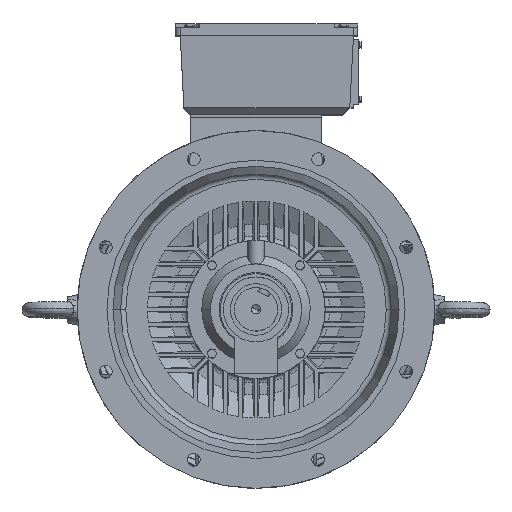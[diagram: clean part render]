
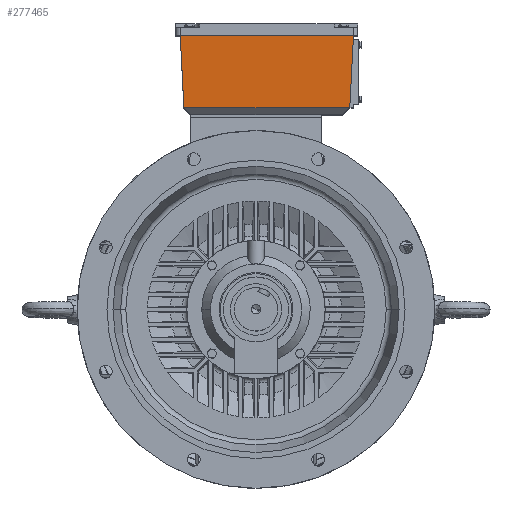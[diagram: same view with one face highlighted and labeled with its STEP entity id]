
A CAD part, top view. The second image highlights one B-rep face of the part: STEP entity #277465.
In plain terms, the highlighted planar face has unit normal (0, -0.051, 0.999) as drawn and (-0.999, 0, -0.051) by its records, which use the part's own axes.
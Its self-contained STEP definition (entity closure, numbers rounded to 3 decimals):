
#60908 = DIRECTION ( 'NONE',  ( 0.051, -0.051, -0.997 ) ) ;
#60909 = CARTESIAN_POINT ( 'NONE',  ( -136.5, 136.5, 81.5 ) ) ;
#60916 = CARTESIAN_POINT ( 'NONE',  ( -140., 0., 150. ) ) ;
#60917 = DIRECTION ( 'NONE',  ( 0., -1., 0. ) ) ;
#60924 = CARTESIAN_POINT ( 'NONE',  ( -140., -180., 150. ) ) ;
#60927 = DIRECTION ( 'NONE',  ( 0., -1., 0. ) ) ;
#60952 = CARTESIAN_POINT ( 'NONE',  ( -136.5, -176.5, 81.5 ) ) ;
#60956 = CARTESIAN_POINT ( 'NONE',  ( -133., 0., 13. ) ) ;
#60957 = DIRECTION ( 'NONE',  ( 0., -1., 0. ) ) ;
#60958 = CARTESIAN_POINT ( 'NONE',  ( -133., 0., 13. ) ) ;
#60959 = DIRECTION ( 'NONE',  ( 0., -1., 0. ) ) ;
#60975 = DIRECTION ( 'NONE',  ( -0.051, -0.051, 0.997 ) ) ;
#75699 = CARTESIAN_POINT ( 'NONE',  ( -133., -173., 13. ) ) ;
#75742 = CARTESIAN_POINT ( 'NONE',  ( -140., 0., 150. ) ) ;
#75745 = CARTESIAN_POINT ( 'NONE',  ( -133., 0., 13. ) ) ;
#75760 = CARTESIAN_POINT ( 'NONE',  ( -133., 133., 13. ) ) ;
#76564 = CARTESIAN_POINT ( 'NONE',  ( -140., 140., 150. ) ) ;
#76630 = CARTESIAN_POINT ( 'NONE',  ( -140., -180., 150. ) ) ;
#85716 = VERTEX_POINT ( 'NONE', #75699 ) ;
#85728 = VERTEX_POINT ( 'NONE', #75742 ) ;
#85729 = VERTEX_POINT ( 'NONE', #75745 ) ;
#85733 = VERTEX_POINT ( 'NONE', #75760 ) ;
#87997 = VERTEX_POINT ( 'NONE', #76564 ) ;
#88035 = VERTEX_POINT ( 'NONE', #76630 ) ;
#103145 = EDGE_CURVE ( 'NONE', #87997, #85733, #260905, .T. ) ;
#103154 = EDGE_CURVE ( 'NONE', #87997, #85728, #260930, .T. ) ;
#103166 = EDGE_CURVE ( 'NONE', #85728, #88035, #260949, .T. ) ;
#103196 = EDGE_CURVE ( 'NONE', #85733, #85729, #261031, .T. ) ;
#103198 = EDGE_CURVE ( 'NONE', #85729, #85716, #261040, .T. ) ;
#103215 = EDGE_CURVE ( 'NONE', #85716, #88035, #261025, .T. ) ;
#135852 = CARTESIAN_POINT ( 'NONE',  ( -140., -180., 150. ) ) ;
#135883 = PLANE ( 'NONE',  #190281 ) ;
#135890 = DIRECTION ( 'NONE',  ( -0.999, 0., -0.051 ) ) ;
#135894 = DIRECTION ( 'NONE',  ( 0., 1., 0. ) ) ;
#167678 = EDGE_LOOP ( 'NONE', ( #232623, #232603, #232597, #232592, #232589, #232573 ) ) ;
#190281 = AXIS2_PLACEMENT_3D ( 'NONE', #135852, #135890, #135894 ) ;
#213344 = FACE_OUTER_BOUND ( 'NONE', #167678, .T. ) ;
#232573 = ORIENTED_EDGE ( 'NONE', *, *, #103215, .T. ) ;
#232589 = ORIENTED_EDGE ( 'NONE', *, *, #103198, .T. ) ;
#232592 = ORIENTED_EDGE ( 'NONE', *, *, #103196, .T. ) ;
#232597 = ORIENTED_EDGE ( 'NONE', *, *, #103145, .T. ) ;
#232603 = ORIENTED_EDGE ( 'NONE', *, *, #103154, .F. ) ;
#232623 = ORIENTED_EDGE ( 'NONE', *, *, #103166, .F. ) ;
#260905 = LINE ( 'NONE', #60909, #260922 ) ;
#260922 = VECTOR ( 'NONE', #60908, 1000. ) ;
#260930 = LINE ( 'NONE', #60916, #260938 ) ;
#260938 = VECTOR ( 'NONE', #60917, 1000. ) ;
#260949 = LINE ( 'NONE', #60924, #260965 ) ;
#260965 = VECTOR ( 'NONE', #60927, 1000. ) ;
#261025 = LINE ( 'NONE', #60952, #261102 ) ;
#261031 = LINE ( 'NONE', #60956, #261043 ) ;
#261040 = LINE ( 'NONE', #60958, #261049 ) ;
#261043 = VECTOR ( 'NONE', #60957, 1000. ) ;
#261049 = VECTOR ( 'NONE', #60959, 1000. ) ;
#261102 = VECTOR ( 'NONE', #60975, 1000. ) ;
#277465 = ADVANCED_FACE ( 'NONE', ( #213344 ), #135883, .T. ) ;
